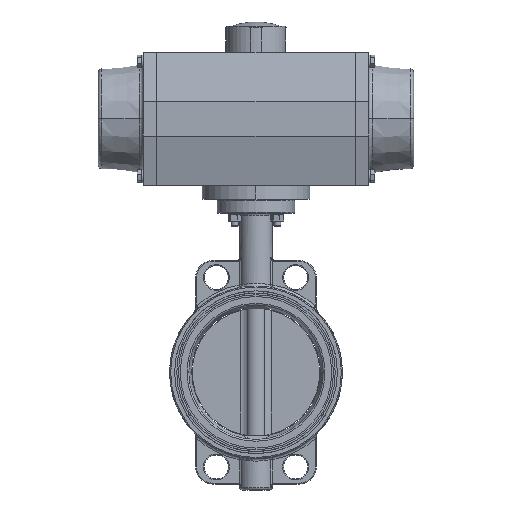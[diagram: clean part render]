
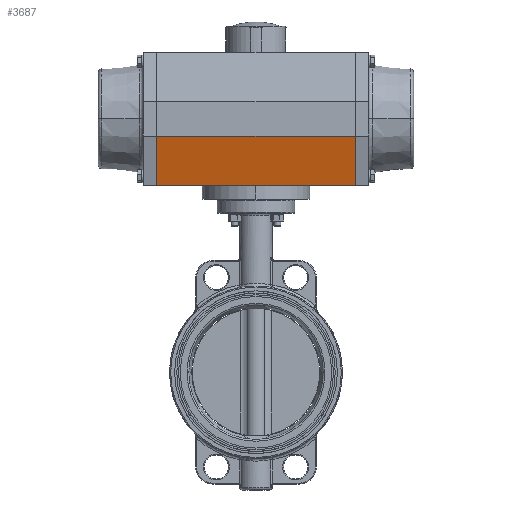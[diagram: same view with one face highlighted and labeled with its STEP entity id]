
A CAD part, front view. The second image highlights one B-rep face of the part: STEP entity #3687.
In plain terms, the highlighted planar face has unit normal (0, -0.968, -0.252) as drawn and (-0.968, -0.252, 0) by its records, which use the part's own axes.
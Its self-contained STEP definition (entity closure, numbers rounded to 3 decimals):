
#801 = EDGE_CURVE ( 'NONE', #32497, #12211, #20364, .T. ) ;
#1823 = AXIS2_PLACEMENT_3D ( 'NONE', #7537, #16760, #37961 ) ;
#3687 = ADVANCED_FACE ( 'NONE', ( #14792 ), #34966, .F. ) ;
#5388 = LINE ( 'NONE', #39409, #35888 ) ;
#5969 = VERTEX_POINT ( 'NONE', #20075 ) ;
#6432 = LINE ( 'NONE', #27609, #37859 ) ;
#6738 = VERTEX_POINT ( 'NONE', #20386 ) ;
#6956 = EDGE_CURVE ( 'NONE', #6738, #5969, #5388, .T. ) ;
#7537 = CARTESIAN_POINT ( 'NONE',  ( -55., -77.5, -115. ) ) ;
#9572 = EDGE_CURVE ( 'NONE', #5969, #12211, #6432, .T. ) ;
#11315 = VECTOR ( 'NONE', #37909, 1000. ) ;
#12211 = VERTEX_POINT ( 'NONE', #20872 ) ;
#12308 = CARTESIAN_POINT ( 'NONE',  ( -55., -77.5, -115. ) ) ;
#12389 = ORIENTED_EDGE ( 'NONE', *, *, #6956, .T. ) ;
#13522 = CARTESIAN_POINT ( 'NONE',  ( -70., -20., -115. ) ) ;
#14792 = FACE_OUTER_BOUND ( 'NONE', #35278, .T. ) ;
#15327 = DIRECTION ( 'NONE',  ( -0.252, 0.968, 0. ) ) ;
#15763 = ORIENTED_EDGE ( 'NONE', *, *, #801, .F. ) ;
#16290 = CARTESIAN_POINT ( 'NONE',  ( -70., -20., -115. ) ) ;
#16760 = DIRECTION ( 'NONE',  ( 0.968, 0.252, 0. ) ) ;
#18185 = DIRECTION ( 'NONE',  ( 0., 0., 1. ) ) ;
#18740 = ORIENTED_EDGE ( 'NONE', *, *, #9572, .T. ) ;
#20075 = CARTESIAN_POINT ( 'NONE',  ( -55., -77.5, 115. ) ) ;
#20364 = LINE ( 'NONE', #13522, #11315 ) ;
#20386 = CARTESIAN_POINT ( 'NONE',  ( -55., -77.5, -115. ) ) ;
#20872 = CARTESIAN_POINT ( 'NONE',  ( -70., -20., 115. ) ) ;
#23141 = VECTOR ( 'NONE', #15327, 1000. ) ;
#27609 = CARTESIAN_POINT ( 'NONE',  ( -55., -77.5, 115. ) ) ;
#30697 = DIRECTION ( 'NONE',  ( -0.252, 0.968, 0. ) ) ;
#32497 = VERTEX_POINT ( 'NONE', #16290 ) ;
#32821 = EDGE_CURVE ( 'NONE', #6738, #32497, #33741, .T. ) ;
#33741 = LINE ( 'NONE', #12308, #23141 ) ;
#34966 = PLANE ( 'NONE',  #1823 ) ;
#35278 = EDGE_LOOP ( 'NONE', ( #12389, #18740, #15763, #36666 ) ) ;
#35888 = VECTOR ( 'NONE', #18185, 1000. ) ;
#36666 = ORIENTED_EDGE ( 'NONE', *, *, #32821, .F. ) ;
#37859 = VECTOR ( 'NONE', #30697, 1000. ) ;
#37909 = DIRECTION ( 'NONE',  ( 0., 0., 1. ) ) ;
#37961 = DIRECTION ( 'NONE',  ( -0.252, 0.968, 0. ) ) ;
#39409 = CARTESIAN_POINT ( 'NONE',  ( -55., -77.5, -115. ) ) ;
